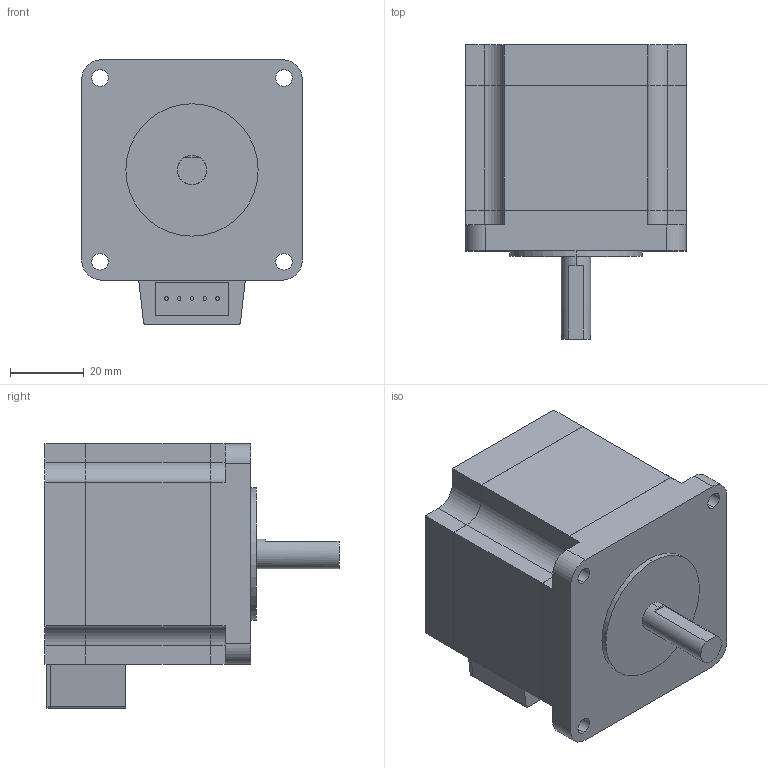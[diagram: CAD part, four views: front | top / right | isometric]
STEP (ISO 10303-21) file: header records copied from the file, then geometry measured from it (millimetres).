
FILE_DESCRIPTION(('starvars output'),'2;1');
FILE_NAME('CRK566PMAP.stp','15:38:33 2015/05/11',( 'Thomas Industrial Network Germany GmbH'),( 'Thomas Industrial Network Germany GmbH'),'unknown preprocess','ACIS' ,'unknown authorization');
FILE_SCHEMA(('AUTOMOTIVE_DESIGN_CC2 {UNKNOWN IMPLEMENTATION LEVEL}'));
Length unit declared in the file: millimetre
Products named in the file (1): PRODUCT_ID_392
Bounding box: 60 x 80 x 72 mm (x, y, z)
Volume: 190219.7 mm3; surface area: 22259.4 mm2
Topology: 1 solids, 1 shells, 172 faces, 456 edges, 292 vertices
Faces by surface type: plane 122, cylinder 50
Entity records: 6220 total; most frequent: ORIENTED_EDGE 912, CARTESIAN_POINT 802, DIRECTION 723, EDGE_CURVE 456, VECTOR 297, LINE 297, VERTEX_POINT 292, AXIS2_PLACEMENT_3D 213
